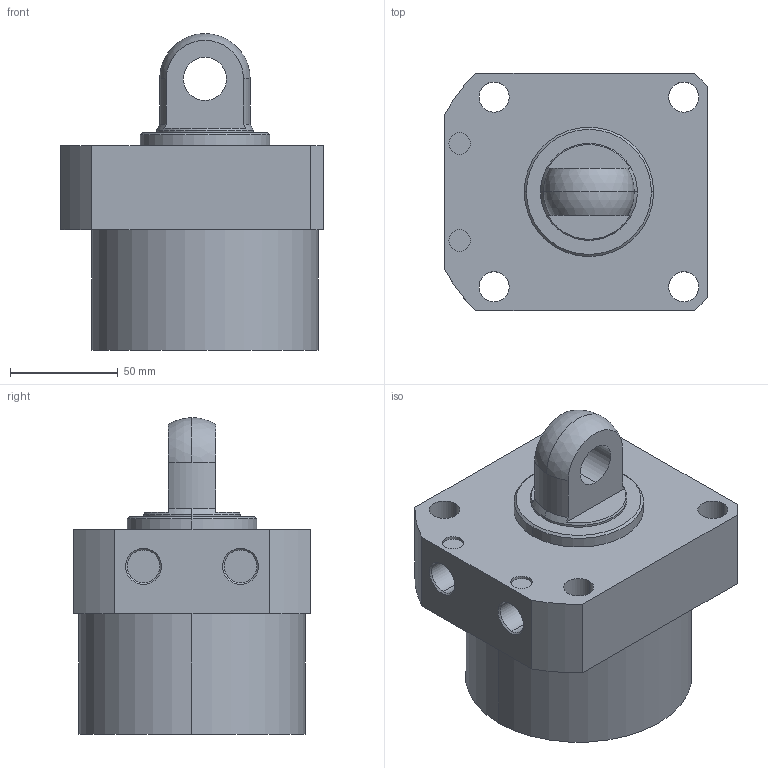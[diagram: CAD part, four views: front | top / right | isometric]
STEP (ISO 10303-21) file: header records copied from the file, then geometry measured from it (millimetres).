
FILE_DESCRIPTION (( 'STEP AP203' ), '1' );
FILE_NAME ('CLLR-105CP-035.STEP', '2019-12-19T02:04:19', ( '' ), ( '' ), 'SwSTEP 2.0', 'SolidWorks 2015', '' );
FILE_SCHEMA (( 'CONFIG_CONTROL_DESIGN' ));
Length unit declared in the file: millimetre
Products named in the file (1): CLLR-105CP-035
Bounding box: 122 x 110 x 147 mm (x, y, z)
Volume: 1011106.6 mm3; surface area: 76151.6 mm2
Topology: 1 solids, 1 shells, 57 faces, 135 edges, 87 vertices
Faces by surface type: cylinder 29, plane 18, cone 8, sphere 2
Entity records: 1770 total; most frequent: DIRECTION 319, CARTESIAN_POINT 292, ORIENTED_EDGE 270, EDGE_CURVE 135, AXIS2_PLACEMENT_3D 130, VERTEX_POINT 87, EDGE_LOOP 74, CIRCLE 72
